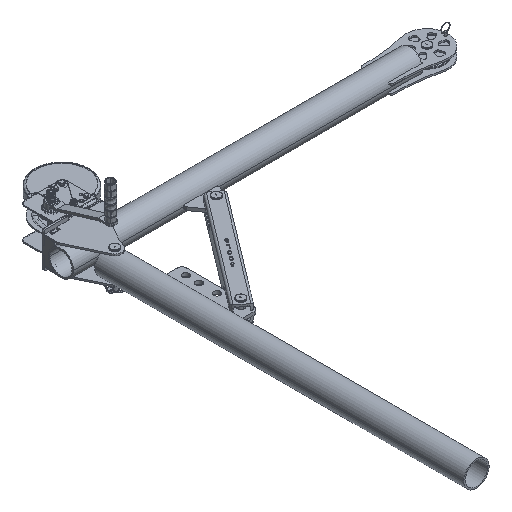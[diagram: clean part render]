
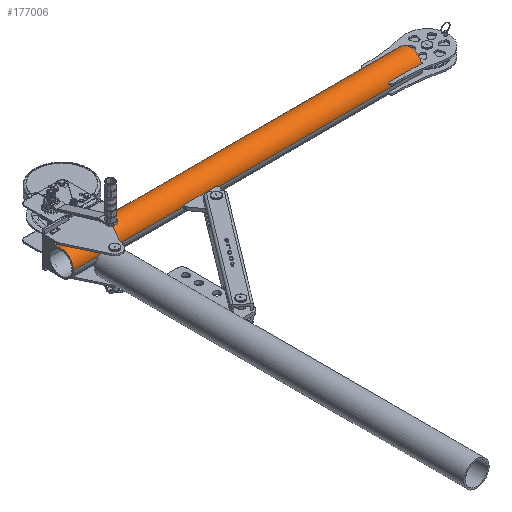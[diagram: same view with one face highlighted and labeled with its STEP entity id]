
A CAD part, isometric view. The second image highlights one B-rep face of the part: STEP entity #177006.
In plain terms, the highlighted cylindrical face has radius 38.1 mm (diameter 76.2 mm), a partial arc.
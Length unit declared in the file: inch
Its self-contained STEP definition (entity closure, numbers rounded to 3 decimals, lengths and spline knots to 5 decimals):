
#3583 = EDGE_LOOP ( 'NONE', ( #51934, #25983, #96833, #23509 ) ) ;
#4362 = VERTEX_POINT ( 'NONE', #67994 ) ;
#10832 = CARTESIAN_POINT ( 'NONE',  ( 0., 0., 41.25 ) ) ;
#11173 = VERTEX_POINT ( 'NONE', #49671 ) ;
#19607 = LINE ( 'NONE', #51583, #133194 ) ;
#22388 = CIRCLE ( 'NONE', #70521, 1.5 ) ;
#23509 = ORIENTED_EDGE ( 'NONE', *, *, #78973, .F. ) ;
#25983 = ORIENTED_EDGE ( 'NONE', *, *, #174706, .T. ) ;
#28656 = DIRECTION ( 'NONE',  ( 0., 0., -1. ) ) ;
#35598 = DIRECTION ( 'NONE',  ( 0., 0., -1. ) ) ;
#43981 = CARTESIAN_POINT ( 'NONE',  ( 0., 0., 41.25 ) ) ;
#49671 = CARTESIAN_POINT ( 'NONE',  ( -1.5, 0., 41.25 ) ) ;
#51583 = CARTESIAN_POINT ( 'NONE',  ( 1.5, 0., 41.25 ) ) ;
#51934 = ORIENTED_EDGE ( 'NONE', *, *, #121062, .F. ) ;
#53976 = DIRECTION ( 'NONE',  ( 0., 0., -1. ) ) ;
#60672 = DIRECTION ( 'NONE',  ( 0., 0., 1. ) ) ;
#67994 = CARTESIAN_POINT ( 'NONE',  ( 1.5, 0., 41.25 ) ) ;
#70521 = AXIS2_PLACEMENT_3D ( 'NONE', #87068, #60672, #144433 ) ;
#78973 = EDGE_CURVE ( 'NONE', #11173, #181214, #125488, .T. ) ;
#86121 = DIRECTION ( 'NONE',  ( -1., 0., 0. ) ) ;
#87068 = CARTESIAN_POINT ( 'NONE',  ( 0., 0., 0. ) ) ;
#91082 = CIRCLE ( 'NONE', #139149, 1.5 ) ;
#96833 = ORIENTED_EDGE ( 'NONE', *, *, #151694, .T. ) ;
#98530 = CARTESIAN_POINT ( 'NONE',  ( 1.5, 0., 0. ) ) ;
#112158 = VECTOR ( 'NONE', #53976, 39.37008 ) ;
#115251 = FACE_OUTER_BOUND ( 'NONE', #3583, .T. ) ;
#121062 = EDGE_CURVE ( 'NONE', #4362, #11173, #91082, .T. ) ;
#125488 = LINE ( 'NONE', #182878, #112158 ) ;
#133194 = VECTOR ( 'NONE', #35598, 39.37008 ) ;
#139149 = AXIS2_PLACEMENT_3D ( 'NONE', #43981, #159726, #186077 ) ;
#143417 = VERTEX_POINT ( 'NONE', #98530 ) ;
#144433 = DIRECTION ( 'NONE',  ( 1., 0., 0. ) ) ;
#151694 = EDGE_CURVE ( 'NONE', #143417, #181214, #22388, .T. ) ;
#159726 = DIRECTION ( 'NONE',  ( 0., 0., 1. ) ) ;
#160601 = AXIS2_PLACEMENT_3D ( 'NONE', #10832, #28656, #86121 ) ;
#164778 = CARTESIAN_POINT ( 'NONE',  ( -1.5, 0., 0. ) ) ;
#174706 = EDGE_CURVE ( 'NONE', #4362, #143417, #19607, .T. ) ;
#177006 = ADVANCED_FACE ( 'NONE', ( #115251 ), #183066, .T. ) ;
#181214 = VERTEX_POINT ( 'NONE', #164778 ) ;
#182878 = CARTESIAN_POINT ( 'NONE',  ( -1.5, 0., 41.25 ) ) ;
#183066 = CYLINDRICAL_SURFACE ( 'NONE', #160601, 1.5 ) ;
#186077 = DIRECTION ( 'NONE',  ( 1., 0., 0. ) ) ;
